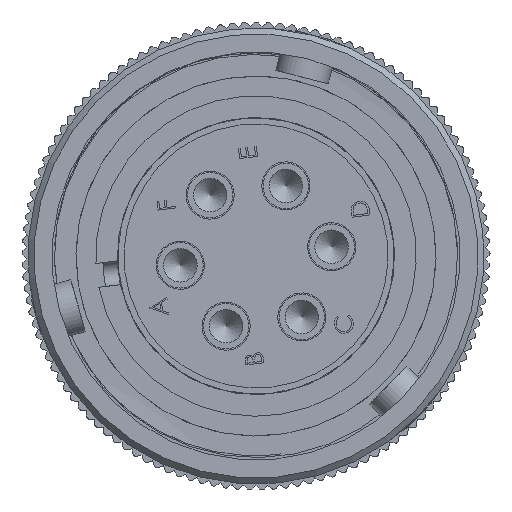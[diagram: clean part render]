
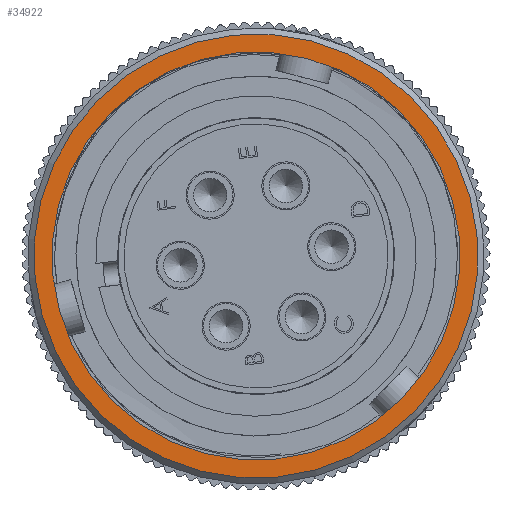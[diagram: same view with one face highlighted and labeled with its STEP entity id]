
A CAD part, front view. The second image highlights one B-rep face of the part: STEP entity #34922.
In plain terms, the highlighted planar face has unit normal (0, -1, 0).
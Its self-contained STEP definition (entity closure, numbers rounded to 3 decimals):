
#373 = PLANE ( 'NONE',  #14656 ) ;
#2282 = DIRECTION ( 'NONE',  ( -0.269, 0., 0.963 ) ) ;
#2852 = ORIENTED_EDGE ( 'NONE', *, *, #38256, .T. ) ;
#7400 = CARTESIAN_POINT ( 'NONE',  ( -15.514, -39.295, 55.573 ) ) ;
#10035 = DIRECTION ( 'NONE',  ( 0., -1., 0. ) ) ;
#14030 = VERTEX_POINT ( 'NONE', #7400 ) ;
#14656 = AXIS2_PLACEMENT_3D ( 'NONE', #20124, #35688, #33201 ) ;
#16223 = FACE_OUTER_BOUND ( 'NONE', #38717, .T. ) ;
#19542 = VERTEX_POINT ( 'NONE', #29691 ) ;
#20124 = CARTESIAN_POINT ( 'NONE',  ( -10.544, -39.295, 37.753 ) ) ;
#21730 = AXIS2_PLACEMENT_3D ( 'NONE', #24051, #30699, #2282 ) ;
#22819 = CARTESIAN_POINT ( 'NONE',  ( -10.544, -39.295, 37.753 ) ) ;
#22958 = ORIENTED_EDGE ( 'NONE', *, *, #24804, .T. ) ;
#24051 = CARTESIAN_POINT ( 'NONE',  ( -10.544, -39.295, 37.753 ) ) ;
#24804 = EDGE_CURVE ( 'NONE', #14030, #14030, #34643, .T. ) ;
#25380 = AXIS2_PLACEMENT_3D ( 'NONE', #22819, #10035, #35076 ) ;
#25873 = EDGE_LOOP ( 'NONE', ( #2852 ) ) ;
#28840 = FACE_BOUND ( 'NONE', #25873, .T. ) ;
#29691 = CARTESIAN_POINT ( 'NONE',  ( -15.111, -39.295, 54.128 ) ) ;
#30699 = DIRECTION ( 'NONE',  ( 0., 1., 0. ) ) ;
#33201 = DIRECTION ( 'NONE',  ( -0.269, 0., 0.963 ) ) ;
#34643 = CIRCLE ( 'NONE', #25380, 18.5 ) ;
#34922 = ADVANCED_FACE ( 'NONE', ( #16223, #28840 ), #373, .F. ) ;
#35076 = DIRECTION ( 'NONE',  ( -0.269, 0., 0.963 ) ) ;
#35688 = DIRECTION ( 'NONE',  ( 0., 1., 0. ) ) ;
#37002 = CIRCLE ( 'NONE', #21730, 17. ) ;
#38256 = EDGE_CURVE ( 'NONE', #19542, #19542, #37002, .T. ) ;
#38717 = EDGE_LOOP ( 'NONE', ( #22958 ) ) ;
